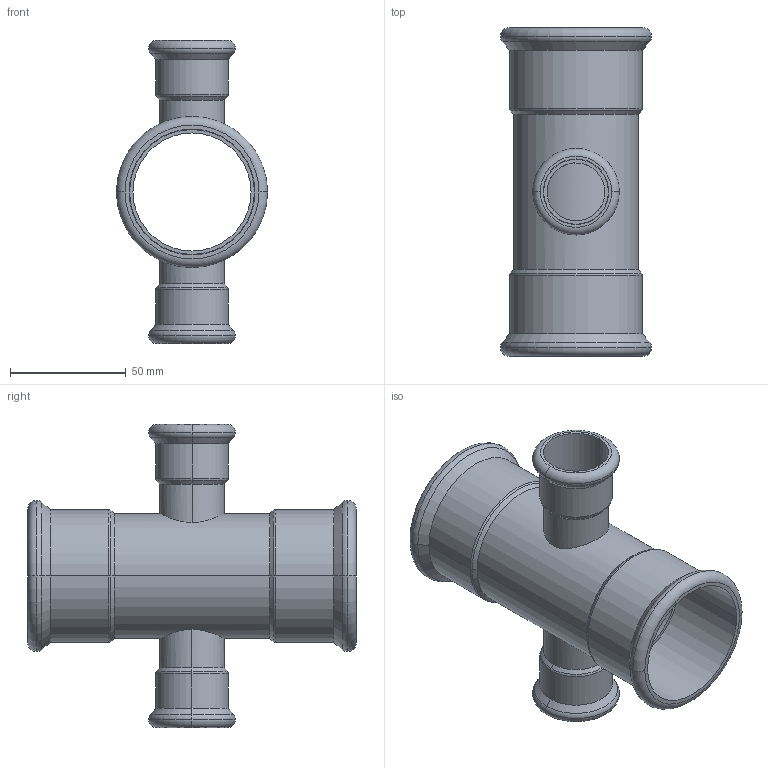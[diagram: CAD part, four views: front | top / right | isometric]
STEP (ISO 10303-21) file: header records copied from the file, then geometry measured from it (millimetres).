
FILE_DESCRIPTION(('CoCreate Modeling STEP Export'),'2;1');
FILE_NAME('C1447 54x28x54x28.stp','2014-11-13T10:48:06',(''),(''),'CoCreate Modeling STEP processor for AP214 (Solid Model)','CoCreate Modeling 17.00A 17-Jun-2010 (C) Parametric Technology GmbH','');
FILE_SCHEMA(('AUTOMOTIVE_DESIGN { 1 0 10303 214 1 1 1 1 }'));
Length unit declared in the file: millimetre
Products named in the file (2): C1447_54x28x54x28
Assembly tree (1 placements, depth 2):
  C1447_54x28x54x28
    C1447_54x28x54x28
Bounding box: 65.3 x 142 x 131 mm (x, y, z)
Volume: 61942.3 mm3; surface area: 67467.7 mm2
Topology: 1 solids, 1 shells, 90 faces, 182 edges, 106 vertices
Faces by surface type: cylinder 38, torus 24, cone 16, plane 12
Entity records: 4310 total; most frequent: CARTESIAN_POINT 2653, ORIENTED_EDGE 364, DIRECTION 298, EDGE_CURVE 182, AXIS2_PLACEMENT_3D 123, VERTEX_POINT 106, EDGE_LOOP 104, FACE_OUTER_BOUND 90
